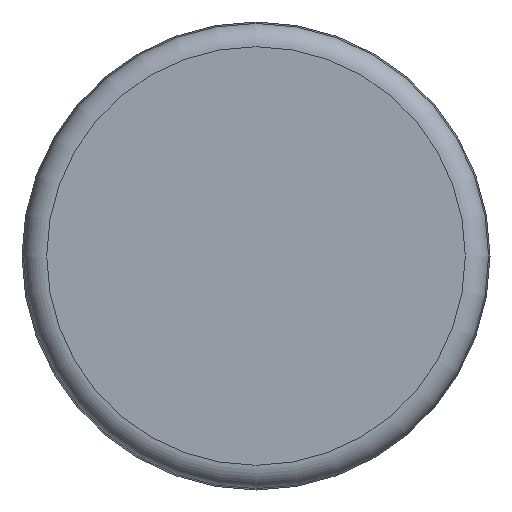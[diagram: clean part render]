
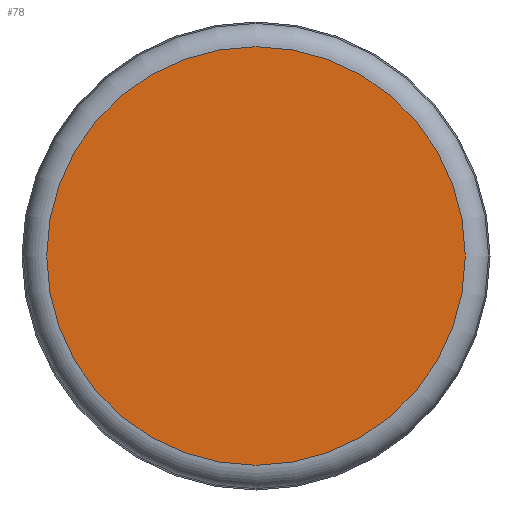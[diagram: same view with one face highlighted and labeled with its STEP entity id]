
A CAD part, front view. The second image highlights one B-rep face of the part: STEP entity #78.
In plain terms, the highlighted planar face has unit normal (0, -1, 0).
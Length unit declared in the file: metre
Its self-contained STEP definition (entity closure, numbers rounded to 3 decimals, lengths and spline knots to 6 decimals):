
#78 = ADVANCED_FACE( '', ( #93 ), #94, .T. );
#93 = FACE_OUTER_BOUND( '', #124, .T. );
#94 = PLANE( '', #125 );
#124 = EDGE_LOOP( '', ( #157 ) );
#125 = AXIS2_PLACEMENT_3D( '', #158, #159, #160 );
#157 = ORIENTED_EDGE( '', *, *, #206, .T. );
#158 = CARTESIAN_POINT( '', ( 0., 0., 0. ) );
#159 = DIRECTION( '', ( 0., -1., 0. ) );
#160 = DIRECTION( '', ( 0., 0., -1. ) );
#206 = EDGE_CURVE( '', #217, #217, #218, .T. );
#217 = VERTEX_POINT( '', #237 );
#218 = CIRCLE( '', #238, 0.022359 );
#237 = CARTESIAN_POINT( '', ( 0., 0., -0.022359 ) );
#238 = AXIS2_PLACEMENT_3D( '', #258, #259, #260 );
#258 = CARTESIAN_POINT( '', ( 0., 0., 0. ) );
#259 = DIRECTION( '', ( 0., -1., 0. ) );
#260 = DIRECTION( '', ( 0., 0., -1. ) );
